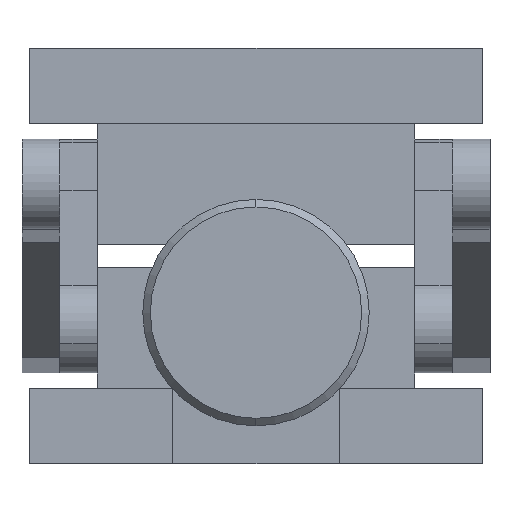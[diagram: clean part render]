
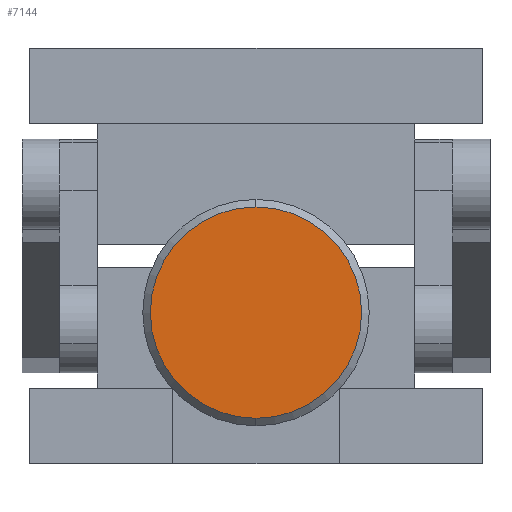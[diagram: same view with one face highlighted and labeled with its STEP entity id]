
A CAD part, left-side view. The second image highlights one B-rep face of the part: STEP entity #7144.
In plain terms, the highlighted planar face has unit normal (-1, 0, 0) as drawn and (0, 0, 1) by its records, which use the part's own axes.
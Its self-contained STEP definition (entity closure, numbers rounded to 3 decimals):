
#68 = EDGE_LOOP ( 'NONE', ( #2658, #2044 ) ) ;
#127 = AXIS2_PLACEMENT_3D ( 'NONE', #8353, #2961, #831 ) ;
#831 = DIRECTION ( 'NONE',  ( 1., 0., 0. ) ) ;
#1747 = EDGE_CURVE ( 'NONE', #4865, #6888, #13765, .T. ) ;
#2044 = ORIENTED_EDGE ( 'NONE', *, *, #1747, .T. ) ;
#2658 = ORIENTED_EDGE ( 'NONE', *, *, #12537, .T. ) ;
#2819 = DIRECTION ( 'NONE',  ( 0., 0., 1. ) ) ;
#2961 = DIRECTION ( 'NONE',  ( 0., 0., 1. ) ) ;
#4865 = VERTEX_POINT ( 'NONE', #12860 ) ;
#5082 = PLANE ( 'NONE',  #6010 ) ;
#5941 = CARTESIAN_POINT ( 'NONE',  ( 0., 0., 31. ) ) ;
#6010 = AXIS2_PLACEMENT_3D ( 'NONE', #6420, #7354, #10623 ) ;
#6420 = CARTESIAN_POINT ( 'NONE',  ( 0., 0., 31. ) ) ;
#6888 = VERTEX_POINT ( 'NONE', #14009 ) ;
#7144 = ADVANCED_FACE ( 'NONE', ( #9556 ), #5082, .T. ) ;
#7354 = DIRECTION ( 'NONE',  ( 0., 0., 1. ) ) ;
#7663 = AXIS2_PLACEMENT_3D ( 'NONE', #5941, #2819, #11211 ) ;
#8353 = CARTESIAN_POINT ( 'NONE',  ( 0., 0., 31. ) ) ;
#9556 = FACE_OUTER_BOUND ( 'NONE', #68, .T. ) ;
#10623 = DIRECTION ( 'NONE',  ( 1., 0., 0. ) ) ;
#11211 = DIRECTION ( 'NONE',  ( 1., 0., 0. ) ) ;
#12537 = EDGE_CURVE ( 'NONE', #6888, #4865, #13814, .T. ) ;
#12860 = CARTESIAN_POINT ( 'NONE',  ( 14., 0., 31. ) ) ;
#13765 = CIRCLE ( 'NONE', #127, 14. ) ;
#13814 = CIRCLE ( 'NONE', #7663, 14. ) ;
#14009 = CARTESIAN_POINT ( 'NONE',  ( -14., 0., 31. ) ) ;
